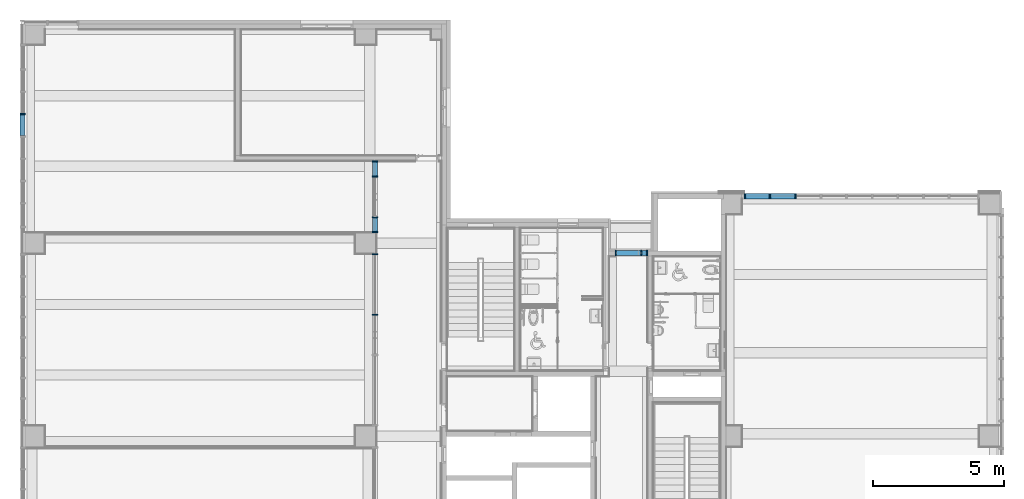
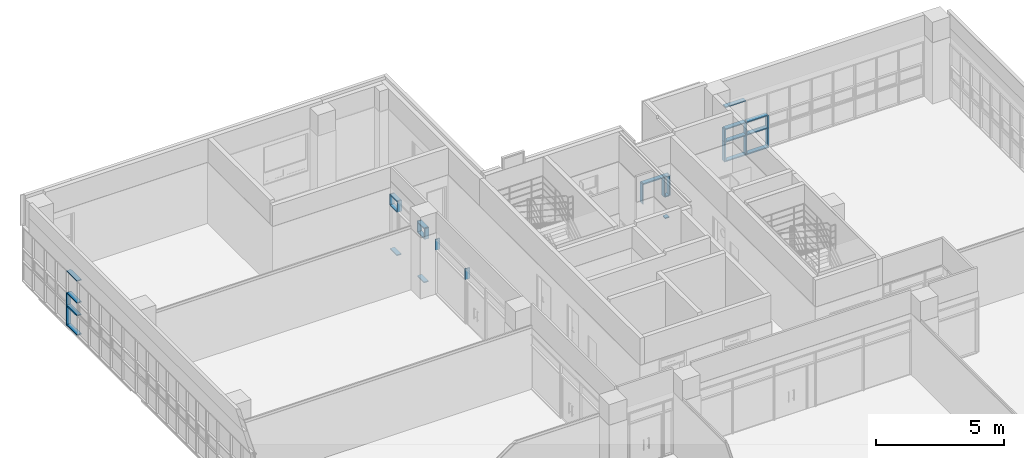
# One storey, part 20 of 76: 38 members, 5 elements without a shape of their own.
"""IFC2X3 building model written with IfcOpenShell, lengths in millimetres."""

from ifc_helpers import new_model, entity, si_unit, converted_unit, derived_unit, direction, frame, origin, origin_2d_with_axis, place, context, subcontext, project, spatial, rectangle, extrude, source, transform, mapped, material, type_object, type_shapes, element, aggregate, save


model = new_model("IFC2X3")

# Units and contexts
model_context = context("Model", 3, precision=0.01, world=origin(), true_north=direction((6.123031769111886e-17, 1.0)))
body_context = subcontext(model_context, "Body", "Model", "MODEL_VIEW")
ifc_project = project(units=[si_unit("LENGTHUNIT", "METRE", prefix="MILLI"), si_unit("AREAUNIT", "SQUARE_METRE"), si_unit("VOLUMEUNIT", "CUBIC_METRE"), converted_unit("PLANEANGLEUNIT", "DEGREE", entity("IfcRatioMeasure", 0.017453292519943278), si_unit("PLANEANGLEUNIT", "RADIAN"), dimensions=[0, 0, 0, 0, 0, 0, 0]), si_unit("MASSUNIT", "GRAM", prefix="KILO"), derived_unit("MASSDENSITYUNIT", [(si_unit("MASSUNIT", "GRAM", prefix="KILO"), 1), (si_unit("LENGTHUNIT", "METRE"), -3)]), derived_unit("MOMENTOFINERTIAUNIT", [(si_unit("LENGTHUNIT", "METRE"), 4)]), si_unit("TIMEUNIT", "SECOND"), si_unit("FREQUENCYUNIT", "HERTZ"), si_unit("THERMODYNAMICTEMPERATUREUNIT", "DEGREE_CELSIUS"), derived_unit("THERMALTRANSMITTANCEUNIT", [(si_unit("MASSUNIT", "GRAM", prefix="KILO"), 1), (si_unit("THERMODYNAMICTEMPERATUREUNIT", "KELVIN"), -1), (si_unit("TIMEUNIT", "SECOND"), -3)]), derived_unit("VOLUMETRICFLOWRATEUNIT", [(si_unit("LENGTHUNIT", "METRE"), 3), (si_unit("TIMEUNIT", "SECOND"), -1)]), derived_unit("MASSFLOWRATEUNIT", [(si_unit("MASSUNIT", "GRAM", prefix="KILO"), 1), (si_unit("TIMEUNIT", "SECOND"), -1)]), derived_unit("ROTATIONALFREQUENCYUNIT", [(si_unit("TIMEUNIT", "SECOND"), -1)]), si_unit("ELECTRICCURRENTUNIT", "AMPERE"), si_unit("ELECTRICVOLTAGEUNIT", "VOLT"), si_unit("POWERUNIT", "WATT"), si_unit("FORCEUNIT", "NEWTON", prefix="KILO"), si_unit("ILLUMINANCEUNIT", "LUX"), si_unit("LUMINOUSFLUXUNIT", "LUMEN"), si_unit("LUMINOUSINTENSITYUNIT", "CANDELA"), derived_unit("USERDEFINED", [(si_unit("MASSUNIT", "GRAM", prefix="KILO"), -1), (si_unit("LENGTHUNIT", "METRE"), -2), (si_unit("TIMEUNIT", "SECOND"), 3), (si_unit("LUMINOUSFLUXUNIT", "LUMEN"), 1)]), derived_unit("SOUNDPOWERUNIT", [(si_unit("MASSUNIT", "GRAM", prefix="KILO"), 1), (si_unit("LENGTHUNIT", "METRE"), 2), (si_unit("TIMEUNIT", "SECOND"), -3)]), derived_unit("SOUNDPRESSUREUNIT", [(si_unit("MASSUNIT", "GRAM", prefix="KILO"), 1), (si_unit("LENGTHUNIT", "METRE"), -1), (si_unit("TIMEUNIT", "SECOND"), -2)]), derived_unit("LINEARVELOCITYUNIT", [(si_unit("LENGTHUNIT", "METRE"), 1), (si_unit("TIMEUNIT", "SECOND"), -1)]), si_unit("PRESSUREUNIT", "PASCAL"), derived_unit("USERDEFINED", [(si_unit("LENGTHUNIT", "METRE"), -2), (si_unit("MASSUNIT", "GRAM", prefix="KILO"), 1), (si_unit("TIMEUNIT", "SECOND"), -2)]), derived_unit("LINEARFORCEUNIT", [(si_unit("MASSUNIT", "GRAM", prefix="KILO"), 1), (si_unit("LENGTHUNIT", "METRE"), 1), (si_unit("TIMEUNIT", "SECOND"), -2), (si_unit("LENGTHUNIT", "METRE"), -1)]), derived_unit("PLANARFORCEUNIT", [(si_unit("MASSUNIT", "GRAM", prefix="KILO"), 1), (si_unit("LENGTHUNIT", "METRE"), 1), (si_unit("TIMEUNIT", "SECOND"), -2), (si_unit("LENGTHUNIT", "METRE"), -2)])], contexts=[model_context])

# Site, building, storey
site_placement = place(None, frame((-14167.972527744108, -657.2125860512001, 0.0)))
site = spatial("IfcSite", under=ifc_project, at=site_placement, Name="Default", CompositionType="ELEMENT")
building_placement = place(site_placement, origin())
building = spatial("IfcBuilding", under=site, at=building_placement, Name="Sample Building", CompositionType="ELEMENT")
storey_placement = place(building_placement, frame((0.0, 0.0, 9300.0)))
storey = spatial("IfcBuildingStorey", under=building, at=storey_placement, Name="지상 3층", CompositionType="ELEMENT", Elevation=9300.000000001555)

# Curtain wall, members
curtain_wall_type = type_object("IfcCurtainWallType", Name="커튼월:CW112-스테인리스 스틸 커튼월", PredefinedType="NOTDEFINED")
curtain_wall_1_placement = place(storey_placement, frame((0.0, 0.0, -9300.0)))
curtain_wall_1 = element("IfcCurtainWall", 1, at=curtain_wall_1_placement, inside=storey, type_object=curtain_wall_type, Name="커튼월:CW112-스테인리스 스틸 커튼월", ObjectType="커튼월:CW112-스테인리스 스틸 커튼월")
ifc_material = material(Name="<Unnamed>")
member_type_1 = type_object("IfcMemberType", Name="직사각형 멀리언:CW200-직사각형 멀리언 50x200mm", PredefinedType="MULLION", material=ifc_material)
shared_shape_1 = source(origin(), body_context, "Body", "SweptSolid", [
    extrude(rectangle(XDim=200.0, YDim=50.0, at=origin_2d_with_axis()), frame((-25.0, 0.0, -925.0), z_axis=(0.0, 0.0, 1.0), x_axis=(0.0, -1.0, 0.0)), (0.0, 0.0, 1.0), 924.9999999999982),
])
type_shapes(member_type_1, [shared_shape_1])
member_1_placement = place(curtain_wall_1_placement, frame((37692.963798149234, 26982.21229514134, 11400.0), z_axis=(1.0, 0.0, 0.0), x_axis=(0.0, 0.0, 1.0)))
member_1 = element("IfcMember", 2, at=member_1_placement, type_object=member_type_1, material=ifc_material, Name="직사각형 멀리언:CW200-직사각형 멀리언 50x200mm", ObjectType="직사각형 멀리언:CW200-직사각형 멀리언 50x200mm", context=body_context, shape_type="MappedRepresentation", body=[
    mapped(shared_shape_1, transform((0.0, 0.0, 0.0), scale=1.0)),
])
member_type_2 = type_object("IfcMemberType", Name="직사각형 멀리언:CW200-직사각형 멀리언 50x200mm", PredefinedType="MULLION", material=ifc_material)
shared_shape_2 = source(origin(), body_context, "Body", "SweptSolid", [
    extrude(rectangle(XDim=200.0, YDim=50.0, at=origin_2d_with_axis()), frame((-25.0, 0.0, -175.0), z_axis=(0.0, 0.0, 1.0), x_axis=(0.0, -1.0, 0.0)), (0.0, 0.0, 1.0), 175.0000000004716),
])
type_shapes(member_type_2, [shared_shape_2])
member_2_placement = place(curtain_wall_1_placement, frame((37917.963798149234, 26982.21229514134, 11400.0), z_axis=(1.0, 0.0, 0.0), x_axis=(0.0, 0.0, 1.0)))
member_2 = element("IfcMember", 3, at=member_2_placement, type_object=member_type_2, material=ifc_material, Name="직사각형 멀리언:CW200-직사각형 멀리언 50x200mm", ObjectType="직사각형 멀리언:CW200-직사각형 멀리언 50x200mm", context=body_context, shape_type="MappedRepresentation", body=[
    mapped(shared_shape_2, transform((0.0, 0.0, 0.0), scale=1.0)),
])
member_type_3 = type_object("IfcMemberType", Name="직사각형 멀리언:CW200-직사각형 멀리언 50x200mm", PredefinedType="MULLION", material=ifc_material)
shared_shape_3 = source(origin(), body_context, "Body", "SweptSolid", [
    extrude(rectangle(XDim=200.0, YDim=50.0, at=origin_2d_with_axis()), frame((-25.0, 0.0, -970.0), z_axis=(0.0, 0.0, 1.0), x_axis=(0.0, -1.0, 0.0)), (0.0, 0.0, 1.0), 970.0000000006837),
])
type_shapes(member_type_3, [shared_shape_3])
member_3_placement = place(curtain_wall_1_placement, frame((36717.963798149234, 26982.212295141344, 11400.0), z_axis=(0.0, 0.0, 1.0), x_axis=(-1.0, 0.0, 0.0)))
member_3 = element("IfcMember", 4, at=member_3_placement, type_object=member_type_3, material=ifc_material, Name="직사각형 멀리언:CW200-직사각형 멀리언 50x200mm", ObjectType="직사각형 멀리언:CW200-직사각형 멀리언 50x200mm", context=body_context, shape_type="MappedRepresentation", body=[
    mapped(shared_shape_3, transform((0.0, 0.0, 0.0), scale=1.0)),
])
member_type_4 = type_object("IfcMemberType", Name="직사각형 멀리언:CW200-직사각형 멀리언 50x200mm", PredefinedType="MULLION", material=ifc_material)
shared_shape_4 = source(origin(), body_context, "Body", "SweptSolid", [
    extrude(rectangle(XDim=200.0, YDim=50.0, at=origin_2d_with_axis()), frame((-25.0, 0.0, -175.0), z_axis=(0.0, 0.0, 1.0), x_axis=(0.0, -1.0, 0.0)), (0.0, 0.0, 1.0), 175.0000000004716),
])
type_shapes(member_type_4, [shared_shape_4])
member_4_placement = place(curtain_wall_1_placement, frame((37742.963798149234, 26982.21229514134, 9380.0), z_axis=(-1.0, 0.0, 0.0), x_axis=(0.0, 0.0, -1.0)))
member_4 = element("IfcMember", 5, at=member_4_placement, type_object=member_type_4, material=ifc_material, Name="직사각형 멀리언:CW200-직사각형 멀리언 50x200mm", ObjectType="직사각형 멀리언:CW200-직사각형 멀리언 50x200mm", context=body_context, shape_type="MappedRepresentation", body=[
    mapped(shared_shape_4, transform((0.0, 0.0, 0.0), scale=1.0)),
])
member_type_5 = type_object("IfcMemberType", Name="직사각형 멀리언:CW200-직사각형 멀리언 50x200mm", PredefinedType="MULLION", material=ifc_material)
shared_shape_5 = source(origin(), body_context, "Body", "SweptSolid", [
    extrude(rectangle(XDim=200.0, YDim=50.0, at=origin_2d_with_axis()), frame((-25.0, 0.0, -970.0), z_axis=(0.0, 0.0, 1.0), x_axis=(0.0, -1.0, 0.0)), (0.0, 0.0, 1.0), 970.0000000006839),
])
type_shapes(member_type_5, [shared_shape_5])
member_5_placement = place(curtain_wall_1_placement, frame((37967.96379814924, 26982.21229514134, 10430.0), z_axis=(0.0, 0.0, -1.0), x_axis=(1.0, 0.0, 0.0)))
member_5 = element("IfcMember", 6, at=member_5_placement, type_object=member_type_5, material=ifc_material, Name="직사각형 멀리언:CW200-직사각형 멀리언 50x200mm", ObjectType="직사각형 멀리언:CW200-직사각형 멀리언 50x200mm", context=body_context, shape_type="MappedRepresentation", body=[
    mapped(shared_shape_5, transform((0.0, 0.0, 0.0), scale=1.0)),
])
member_type_6 = type_object("IfcMemberType", Name="직사각형 멀리언:CW200-직사각형 멀리언 50x200mm", PredefinedType="MULLION", material=ifc_material)
shared_shape_6 = source(origin(), body_context, "Body", "SweptSolid", [
    extrude(rectangle(XDim=200.0, YDim=50.0, at=origin_2d_with_axis()), frame((0.0, 0.0, -175.0), z_axis=(0.0, 0.0, 1.0), x_axis=(0.0, -1.0, 0.0)), (0.0, 0.0, 1.0), 175.00000000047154),
])
type_shapes(member_type_6, [shared_shape_6])
member_6_placement = place(curtain_wall_1_placement, frame((37917.963798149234, 26982.21229514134, 10430.0), z_axis=(1.0, 0.0, 0.0), x_axis=(0.0, 0.0, 1.0)))
member_6 = element("IfcMember", 7, at=member_6_placement, type_object=member_type_6, material=ifc_material, Name="직사각형 멀리언:CW200-직사각형 멀리언 50x200mm", ObjectType="직사각형 멀리언:CW200-직사각형 멀리언 50x200mm", context=body_context, shape_type="MappedRepresentation", body=[
    mapped(shared_shape_6, transform((0.0, 0.0, 0.0), scale=1.0)),
])
member_type_7 = type_object("IfcMemberType", Name="직사각형 멀리언:CW200-직사각형 멀리언 50x200mm", PredefinedType="MULLION", material=ifc_material)
shared_shape_7 = source(origin(), body_context, "Body", "SweptSolid", [
    extrude(rectangle(XDim=200.0, YDim=50.0, at=origin_2d_with_axis()), frame((0.0, 0.0, -970.0), z_axis=(0.0, 0.0, 1.0), x_axis=(0.0, -1.0, 0.0)), (0.0, 0.0, 1.0), 970.0000000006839),
])
type_shapes(member_type_7, [shared_shape_7])
member_7_placement = place(curtain_wall_1_placement, frame((37717.963798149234, 26982.21229514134, 10430.0), z_axis=(0.0, 0.0, -1.0), x_axis=(1.0, 0.0, 0.0)))
member_7 = element("IfcMember", 8, at=member_7_placement, type_object=member_type_7, material=ifc_material, Name="직사각형 멀리언:CW200-직사각형 멀리언 50x200mm", ObjectType="직사각형 멀리언:CW200-직사각형 멀리언 50x200mm", context=body_context, shape_type="MappedRepresentation", body=[
    mapped(shared_shape_7, transform((0.0, 0.0, 0.0), scale=1.0)),
])
aggregate(curtain_wall_1, [member_2, member_3, member_1, member_4, member_5, member_6, member_7])

# Curtain wall, member
curtain_wall_2_placement = place(storey_placement, frame((0.0, 0.0, -9300.0)))
curtain_wall_2 = element("IfcCurtainWall", 9, at=curtain_wall_2_placement, inside=storey, type_object=curtain_wall_type, Name="커튼월:CW112-스테인리스 스틸 커튼월", ObjectType="커튼월:CW112-스테인리스 스틸 커튼월")
member_type_8 = type_object("IfcMemberType", Name="직사각형 멀리언:CW200-직사각형 멀리언 50x200mm", PredefinedType="MULLION", material=ifc_material)
shared_shape_8 = source(origin(), body_context, "Body", "SweptSolid", [
    extrude(rectangle(XDim=200.0, YDim=50.0, at=origin_2d_with_axis()), frame((-25.0, 0.0, -600.0), z_axis=(0.0, 0.0, 1.0), x_axis=(0.0, -1.0, 0.0)), (0.0, 0.0, 1.0), 600.0),
])
type_shapes(member_type_8, [shared_shape_8])
member_8_placement = place(curtain_wall_2_placement, frame((41667.97248530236, 29157.212295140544, 10330.0), z_axis=(0.0, 0.0, -1.0), x_axis=(-1.0, 0.0, 0.0)))
member_8 = element("IfcMember", 10, at=member_8_placement, type_object=member_type_8, material=ifc_material, Name="직사각형 멀리언:CW200-직사각형 멀리언 50x200mm", ObjectType="직사각형 멀리언:CW200-직사각형 멀리언 50x200mm", context=body_context, shape_type="MappedRepresentation", body=[
    mapped(shared_shape_8, transform((0.0, 0.0, 0.0), scale=1.0)),
])

curtain_wall_3_placement = place(storey_placement, frame((0.0, 0.0, -9300.0)))
curtain_wall_3 = element("IfcCurtainWall", 11, at=curtain_wall_3_placement, inside=storey, type_object=curtain_wall_type, Name="커튼월:CW112-스테인리스 스틸 커튼월", ObjectType="커튼월:CW112-스테인리스 스틸 커튼월")
member_type_9 = type_object("IfcMemberType", Name="직사각형 멀리언:CW200-직사각형 멀리언 50x200mm", PredefinedType="MULLION", material=ifc_material)
shared_shape_9 = source(origin(), body_context, "Body", "SweptSolid", [
    extrude(rectangle(XDim=200.0, YDim=50.0, at=origin_2d_with_axis()), frame((0.0, 0.0, -600.0), z_axis=(0.0, 0.0, 1.0), x_axis=(0.0, -1.0, 0.0)), (0.0, 0.0, 1.0), 600.0),
])
type_shapes(member_type_9, [shared_shape_9])
member_9_placement = place(curtain_wall_3_placement, frame((14018.587904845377, 32301.817707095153, 10330.0), z_axis=(0.0, 0.0, -1.0), x_axis=(0.0, -1.0, 0.0)))
member_9 = element("IfcMember", 12, at=member_9_placement, type_object=member_type_9, material=ifc_material, Name="직사각형 멀리언:CW200-직사각형 멀리언 50x200mm", ObjectType="직사각형 멀리언:CW200-직사각형 멀리언 50x200mm", context=body_context, shape_type="MappedRepresentation", body=[
    mapped(shared_shape_9, transform((0.0, 0.0, 0.0), scale=1.0)),
])

# Member
member_10_placement = place(curtain_wall_2_placement, frame((43627.970754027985, 29157.212295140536, 10330.0), z_axis=(0.0, 0.0, -1.0), x_axis=(-1.0, 0.0, 0.0)))
member_10 = element("IfcMember", 13, at=member_10_placement, type_object=member_type_9, material=ifc_material, Name="직사각형 멀리언:CW200-직사각형 멀리언 50x200mm", ObjectType="직사각형 멀리언:CW200-직사각형 멀리언 50x200mm", context=body_context, shape_type="MappedRepresentation", body=[
    mapped(shared_shape_9, transform((0.0, 0.0, 0.0), scale=1.0)),
])

member_11_placement = place(curtain_wall_2_placement, frame((42647.97161966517, 29157.21229514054, 10330.0), z_axis=(0.0, 0.0, -1.0), x_axis=(-1.0, 0.0, 0.0)))
member_11 = element("IfcMember", 14, at=member_11_placement, type_object=member_type_9, material=ifc_material, Name="직사각형 멀리언:CW200-직사각형 멀리언 50x200mm", ObjectType="직사각형 멀리언:CW200-직사각형 멀리언 50x200mm", context=body_context, shape_type="MappedRepresentation", body=[
    mapped(shared_shape_9, transform((0.0, 0.0, 0.0), scale=1.0)),
])

# Curtain wall, members
curtain_wall_4_placement = place(storey_placement, frame((0.0, 0.0, -9300.0)))
curtain_wall_4 = element("IfcCurtainWall", 15, at=curtain_wall_4_placement, inside=storey, type_object=curtain_wall_type, Name="커튼월:CW112-스테인리스 스틸 커튼월", ObjectType="커튼월:CW112-스테인리스 스틸 커튼월")
member_type_10 = type_object("IfcMemberType", Name="직사각형 멀리언:CW200-직사각형 멀리언 50x200mm", PredefinedType="MULLION", material=ifc_material)
shared_shape_10 = source(origin(), body_context, "Body", "SweptSolid", [
    extrude(rectangle(XDim=200.0, YDim=50.0, at=origin_2d_with_axis()), frame((-25.0, 0.0, -520.0002780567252), z_axis=(0.0, 0.0, 1.0), x_axis=(0.0, -1.0, 0.0)), (0.0, 0.0, 1.0), 520.0002780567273),
])
type_shapes(member_type_10, [shared_shape_10])
member_12_placement = place(curtain_wall_4_placement, frame((27522.955105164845, 27807.212307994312, 12000.0), z_axis=(0.0, -1.0, 0.0), x_axis=(0.0, 0.0, 1.0)))
member_12 = element("IfcMember", 16, at=member_12_placement, type_object=member_type_10, material=ifc_material, Name="직사각형 멀리언:CW200-직사각형 멀리언 50x200mm", ObjectType="직사각형 멀리언:CW200-직사각형 멀리언 50x200mm", context=body_context, shape_type="MappedRepresentation", body=[
    mapped(shared_shape_10, transform((0.0, 0.0, 0.0), scale=1.0)),
])
member_type_11 = type_object("IfcMemberType", Name="직사각형 멀리언:CW200-직사각형 멀리언 50x200mm", PredefinedType="MULLION", material=ifc_material)
shared_shape_11 = source(origin(), body_context, "Body", "SweptSolid", [
    extrude(rectangle(XDim=200.0, YDim=50.0, at=origin_2d_with_axis()), frame((-25.0, 0.0, -525.0), z_axis=(0.0, 0.0, 1.0), x_axis=(0.0, -1.0, 0.0)), (0.0, 0.0, 1.0), 524.9999999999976),
])
type_shapes(member_type_11, [shared_shape_11])
member_13_placement = place(curtain_wall_4_placement, frame((27522.955105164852, 30457.212275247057, 9380.0), z_axis=(0.0, 1.0, 0.0), x_axis=(0.0, 0.0, -1.0)))
member_13 = element("IfcMember", 17, at=member_13_placement, type_object=member_type_11, material=ifc_material, Name="직사각형 멀리언:CW200-직사각형 멀리언 50x200mm", ObjectType="직사각형 멀리언:CW200-직사각형 멀리언 50x200mm", context=body_context, shape_type="MappedRepresentation", body=[
    mapped(shared_shape_11, transform((0.0, 0.0, 0.0), scale=1.0)),
])
member_type_12 = type_object("IfcMemberType", Name="직사각형 멀리언:CW200-직사각형 멀리언 50x200mm", PredefinedType="MULLION", material=ifc_material)
shared_shape_12 = source(origin(), body_context, "Body", "SweptSolid", [
    extrude(rectangle(XDim=200.0, YDim=50.0, at=origin_2d_with_axis()), frame((-25.0, 0.0, -520.0), z_axis=(0.0, 0.0, 1.0), x_axis=(0.0, -1.0, 0.0)), (0.0, 0.0, 1.0), 520.0000000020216),
])
type_shapes(member_type_12, [shared_shape_12])
member_14_placement = place(curtain_wall_4_placement, frame((27522.955105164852, 30507.21227524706, 12000.0), z_axis=(0.0, 0.0, 1.0), x_axis=(0.0, 1.0, 0.0)))
member_14 = element("IfcMember", 18, at=member_14_placement, type_object=member_type_12, material=ifc_material, Name="직사각형 멀리언:CW200-직사각형 멀리언 50x200mm", ObjectType="직사각형 멀리언:CW200-직사각형 멀리언 50x200mm", context=body_context, shape_type="MappedRepresentation", body=[
    mapped(shared_shape_12, transform((0.0, 0.0, 0.0), scale=1.0)),
])

# Curtain wall, member
curtain_wall_5_placement = place(storey_placement, frame((0.0, 0.0, -9300.0)))
curtain_wall_5 = element("IfcCurtainWall", 19, at=curtain_wall_5_placement, inside=storey, type_object=curtain_wall_type, Name="커튼월:CW112-스테인리스 스틸 커튼월", ObjectType="커튼월:CW112-스테인리스 스틸 커튼월")
member_15_placement = place(curtain_wall_5_placement, frame((27522.955105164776, 26957.21230799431, 12000.0), z_axis=(0.0, 0.0, 1.0), x_axis=(0.0, 1.0, 0.0)))
member_15 = element("IfcMember", 20, at=member_15_placement, type_object=member_type_12, material=ifc_material, Name="직사각형 멀리언:CW200-직사각형 멀리언 50x200mm", ObjectType="직사각형 멀리언:CW200-직사각형 멀리언 50x200mm", context=body_context, shape_type="MappedRepresentation", body=[
    mapped(shared_shape_12, transform((0.0, 0.0, 0.0), scale=1.0)),
])

# Member
member_type_13 = type_object("IfcMemberType", Name="직사각형 멀리언:CW200-직사각형 멀리언 50x200mm", PredefinedType="MULLION", material=ifc_material)
shared_shape_13 = source(origin(), body_context, "Body", "SweptSolid", [
    extrude(rectangle(XDim=200.0, YDim=50.0, at=origin_2d_with_axis()), frame((-25.0, 0.0, -520.0), z_axis=(0.0, 0.0, 1.0), x_axis=(0.0, -1.0, 0.0)), (0.0, 0.0, 1.0), 520.0000000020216),
])
type_shapes(member_type_13, [shared_shape_13])
member_16_placement = place(curtain_wall_4_placement, frame((27522.955105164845, 27757.21230799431, 11480.0), z_axis=(0.0, 0.0, -1.0), x_axis=(0.0, -1.0, 0.0)))
member_16 = element("IfcMember", 21, at=member_16_placement, type_object=member_type_13, material=ifc_material, Name="직사각형 멀리언:CW200-직사각형 멀리언 50x200mm", ObjectType="직사각형 멀리언:CW200-직사각형 멀리언 50x200mm", context=body_context, shape_type="MappedRepresentation", body=[
    mapped(shared_shape_13, transform((0.0, 0.0, 0.0), scale=1.0)),
])

member_type_14 = type_object("IfcMemberType", Name="직사각형 멀리언:CW200-직사각형 멀리언 50x200mm", PredefinedType="MULLION", material=ifc_material)
shared_shape_14 = source(origin(), body_context, "Body", "SweptSolid", [
    extrude(rectangle(XDim=200.0, YDim=50.0, at=origin_2d_with_axis()), frame((0.0, 0.0, -525.0), z_axis=(0.0, 0.0, 1.0), x_axis=(0.0, -1.0, 0.0)), (0.0, 0.0, 1.0), 524.9999999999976),
])
type_shapes(member_type_14, [shared_shape_14])
member_17_placement = place(curtain_wall_4_placement, frame((27522.955105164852, 29932.21227524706, 11480.0), z_axis=(0.0, -1.0, 0.0), x_axis=(0.0, 0.0, 1.0)))
member_17 = element("IfcMember", 22, at=member_17_placement, type_object=member_type_14, material=ifc_material, Name="직사각형 멀리언:CW200-직사각형 멀리언 50x200mm", ObjectType="직사각형 멀리언:CW200-직사각형 멀리언 50x200mm", context=body_context, shape_type="MappedRepresentation", body=[
    mapped(shared_shape_14, transform((0.0, 0.0, 0.0), scale=1.0)),
])

member_type_15 = type_object("IfcMemberType", Name="직사각형 멀리언:CW200-직사각형 멀리언 50x200mm", PredefinedType="MULLION", material=ifc_material)
shared_shape_15 = source(origin(), body_context, "Body", "SweptSolid", [
    extrude(rectangle(XDim=200.0, YDim=50.0, at=origin_2d_with_axis()), frame((-25.0, 0.0, -525.0), z_axis=(0.0, 0.0, 1.0), x_axis=(0.0, -1.0, 0.0)), (0.0, 0.0, 1.0), 524.9999999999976),
])
type_shapes(member_type_15, [shared_shape_15])
member_18_placement = place(curtain_wall_4_placement, frame((27522.955105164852, 29932.21227524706, 12000.0), z_axis=(0.0, -1.0, 0.0), x_axis=(0.0, 0.0, 1.0)))
member_18 = element("IfcMember", 23, at=member_18_placement, type_object=member_type_15, material=ifc_material, Name="직사각형 멀리언:CW200-직사각형 멀리언 50x200mm", ObjectType="직사각형 멀리언:CW200-직사각형 멀리언 50x200mm", context=body_context, shape_type="MappedRepresentation", body=[
    mapped(shared_shape_15, transform((0.0, 0.0, 0.0), scale=1.0)),
])

member_type_16 = type_object("IfcMemberType", Name="직사각형 멀리언:CW200-직사각형 멀리언 50x200mm", PredefinedType="MULLION", material=ifc_material)
shared_shape_16 = source(origin(), body_context, "Body", "SweptSolid", [
    extrude(rectangle(XDim=200.0, YDim=50.0, at=origin_2d_with_axis()), frame((0.0, 0.0, -520.0), z_axis=(0.0, 0.0, 1.0), x_axis=(0.0, -1.0, 0.0)), (0.0, 0.0, 1.0), 520.0000000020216),
])
type_shapes(member_type_16, [shared_shape_16])
member_19_placement = place(curtain_wall_4_placement, frame((27522.955105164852, 29907.21227524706, 11480.0), z_axis=(0.0, 0.0, -1.0), x_axis=(0.0, -1.0, 0.0)))
member_19 = element("IfcMember", 24, at=member_19_placement, type_object=member_type_16, material=ifc_material, Name="직사각형 멀리언:CW200-직사각형 멀리언 50x200mm", ObjectType="직사각형 멀리언:CW200-직사각형 멀리언 50x200mm", context=body_context, shape_type="MappedRepresentation", body=[
    mapped(shared_shape_16, transform((0.0, 0.0, 0.0), scale=1.0)),
])

member_20_placement = place(curtain_wall_4_placement, frame((27522.955105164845, 28352.21258605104, 11480.0), z_axis=(0.0, 0.0, -1.0), x_axis=(0.0, -1.0, 0.0)))
member_20 = element("IfcMember", 25, at=member_20_placement, type_object=member_type_16, material=ifc_material, Name="직사각형 멀리언:CW200-직사각형 멀리언 50x200mm", ObjectType="직사각형 멀리언:CW200-직사각형 멀리언 50x200mm", context=body_context, shape_type="MappedRepresentation", body=[
    mapped(shared_shape_16, transform((0.0, 0.0, 0.0), scale=1.0)),
])

member_21_placement = place(curtain_wall_5_placement, frame((27522.955105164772, 24617.21230799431, 11480.0), z_axis=(0.0, 0.0, -1.0), x_axis=(0.0, -1.0, 0.0)))
member_21 = element("IfcMember", 26, at=member_21_placement, type_object=member_type_16, material=ifc_material, Name="직사각형 멀리언:CW200-직사각형 멀리언 50x200mm", ObjectType="직사각형 멀리언:CW200-직사각형 멀리언 50x200mm", context=body_context, shape_type="MappedRepresentation", body=[
    mapped(shared_shape_16, transform((0.0, 0.0, 0.0), scale=1.0)),
])

aggregate(curtain_wall_5, [member_15, member_21])

member_type_17 = type_object("IfcMemberType", Name="직사각형 멀리언:CW200-직사각형 멀리언 50x200mm", PredefinedType="MULLION", material=ifc_material)
shared_shape_17 = source(origin(), body_context, "Body", "SweptSolid", [
    extrude(rectangle(XDim=200.0, YDim=50.0, at=origin_2d_with_axis()), frame((-25.0, 0.0, -520.0002780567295), z_axis=(0.0, 0.0, 1.0), x_axis=(0.0, -1.0, 0.0)), (0.0, 0.0, 1.0), 520.0002780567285),
])
type_shapes(member_type_17, [shared_shape_17])
member_22_placement = place(curtain_wall_4_placement, frame((27522.955105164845, 28327.21258605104, 9380.0), z_axis=(0.0, 1.0, 0.0), x_axis=(0.0, 0.0, -1.0)))
member_22 = element("IfcMember", 27, at=member_22_placement, type_object=member_type_17, material=ifc_material, Name="직사각형 멀리언:CW200-직사각형 멀리언 50x200mm", ObjectType="직사각형 멀리언:CW200-직사각형 멀리언 50x200mm", context=body_context, shape_type="MappedRepresentation", body=[
    mapped(shared_shape_17, transform((0.0, 0.0, 0.0), scale=1.0)),
])

member_type_18 = type_object("IfcMemberType", Name="직사각형 멀리언:CW200-직사각형 멀리언 50x200mm", PredefinedType="MULLION", material=ifc_material)
shared_shape_18 = source(origin(), body_context, "Body", "SweptSolid", [
    extrude(rectangle(XDim=200.0, YDim=50.0, at=origin_2d_with_axis()), frame((0.0, 0.0, -520.0002780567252), z_axis=(0.0, 0.0, 1.0), x_axis=(0.0, -1.0, 0.0)), (0.0, 0.0, 1.0), 520.0002780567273),
])
type_shapes(member_type_18, [shared_shape_18])
member_23_placement = place(curtain_wall_4_placement, frame((27522.955105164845, 27807.212307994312, 11480.0), z_axis=(0.0, -1.0, 0.0), x_axis=(0.0, 0.0, 1.0)))
member_23 = element("IfcMember", 28, at=member_23_placement, type_object=member_type_18, material=ifc_material, Name="직사각형 멀리언:CW200-직사각형 멀리언 50x200mm", ObjectType="직사각형 멀리언:CW200-직사각형 멀리언 50x200mm", context=body_context, shape_type="MappedRepresentation", body=[
    mapped(shared_shape_18, transform((0.0, 0.0, 0.0), scale=1.0)),
])

aggregate(curtain_wall_4, [member_12, member_13, member_14, member_16, member_17, member_18, member_19, member_22, member_23, member_20])

member_type_19 = type_object("IfcMemberType", Name="직사각형 멀리언:CW200-직사각형 멀리언 50x200mm", PredefinedType="MULLION", material=ifc_material)
shared_shape_19 = source(origin(), body_context, "Body", "SweptSolid", [
    extrude(rectangle(XDim=200.0, YDim=50.0, at=origin_2d_with_axis()), frame((0.0, 0.0, -950.0), z_axis=(0.0, 0.0, 1.0), x_axis=(0.0, -1.0, 0.0)), (0.0, 0.0, 1.0), 949.9999999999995),
])
type_shapes(member_type_19, [shared_shape_19])
member_24_placement = place(curtain_wall_3_placement, frame((14018.587904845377, 32301.817707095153, 9380.0), z_axis=(0.0, 0.0, -1.0), x_axis=(0.0, -1.0, 0.0)))
member_24 = element("IfcMember", 29, at=member_24_placement, type_object=member_type_19, material=ifc_material, Name="직사각형 멀리언:CW200-직사각형 멀리언 50x200mm", ObjectType="직사각형 멀리언:CW200-직사각형 멀리언 50x200mm", context=body_context, shape_type="MappedRepresentation", body=[
    mapped(shared_shape_19, transform((0.0, 0.0, 0.0), scale=1.0)),
])

member_25_placement = place(curtain_wall_2_placement, frame((43627.970754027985, 29157.212295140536, 9380.0), z_axis=(0.0, 0.0, -1.0), x_axis=(-1.0, 0.0, 0.0)))
member_25 = element("IfcMember", 30, at=member_25_placement, type_object=member_type_19, material=ifc_material, Name="직사각형 멀리언:CW200-직사각형 멀리언 50x200mm", ObjectType="직사각형 멀리언:CW200-직사각형 멀리언 50x200mm", context=body_context, shape_type="MappedRepresentation", body=[
    mapped(shared_shape_19, transform((0.0, 0.0, 0.0), scale=1.0)),
])

member_26_placement = place(curtain_wall_2_placement, frame((42647.97161966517, 29157.21229514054, 9380.0), z_axis=(0.0, 0.0, -1.0), x_axis=(-1.0, 0.0, 0.0)))
member_26 = element("IfcMember", 31, at=member_26_placement, type_object=member_type_19, material=ifc_material, Name="직사각형 멀리언:CW200-직사각형 멀리언 50x200mm", ObjectType="직사각형 멀리언:CW200-직사각형 멀리언 50x200mm", context=body_context, shape_type="MappedRepresentation", body=[
    mapped(shared_shape_19, transform((0.0, 0.0, 0.0), scale=1.0)),
])

member_type_20 = type_object("IfcMemberType", Name="직사각형 멀리언:CW200-직사각형 멀리언 50x200mm", PredefinedType="MULLION", material=ifc_material)
shared_shape_20 = source(origin(), body_context, "Body", "SweptSolid", [
    extrude(rectangle(XDim=200.0, YDim=50.0, at=origin_2d_with_axis()), frame((-25.0, 0.0, -804.0), z_axis=(0.0, 0.0, 1.0), x_axis=(0.0, -1.0, 0.0)), (0.0, 0.0, 1.0), 804.0000000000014),
])
type_shapes(member_type_20, [shared_shape_20])
member_27_placement = place(curtain_wall_3_placement, frame((14018.587904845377, 32276.817707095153, 9380.0), z_axis=(0.0, 1.0, 0.0), x_axis=(0.0, 0.0, -1.0)))
member_27 = element("IfcMember", 32, at=member_27_placement, type_object=member_type_20, material=ifc_material, Name="직사각형 멀리언:CW200-직사각형 멀리언 50x200mm", ObjectType="직사각형 멀리언:CW200-직사각형 멀리언 50x200mm", context=body_context, shape_type="MappedRepresentation", body=[
    mapped(shared_shape_20, transform((0.0, 0.0, 0.0), scale=1.0)),
])

member_type_21 = type_object("IfcMemberType", Name="직사각형 멀리언:CW200-직사각형 멀리언 50x200mm", PredefinedType="MULLION", material=ifc_material)
shared_shape_21 = source(origin(), body_context, "Body", "SweptSolid", [
    extrude(rectangle(XDim=200.0, YDim=50.0, at=origin_2d_with_axis()), frame((0.0, 0.0, -804.0), z_axis=(0.0, 0.0, 1.0), x_axis=(0.0, -1.0, 0.0)), (0.0, 0.0, 1.0), 803.9999999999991),
])
type_shapes(member_type_21, [shared_shape_21])
member_28_placement = place(curtain_wall_3_placement, frame((14018.587904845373, 31472.81770709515, 10330.0), z_axis=(0.0, -1.0, 0.0), x_axis=(0.0, 0.0, 1.0)))
member_28 = element("IfcMember", 33, at=member_28_placement, type_object=member_type_21, material=ifc_material, Name="직사각형 멀리언:CW200-직사각형 멀리언 50x200mm", ObjectType="직사각형 멀리언:CW200-직사각형 멀리언 50x200mm", context=body_context, shape_type="MappedRepresentation", body=[
    mapped(shared_shape_21, transform((0.0, 0.0, 0.0), scale=1.0)),
])

member_29_placement = place(curtain_wall_3_placement, frame((14018.587904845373, 31472.81770709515, 10930.0), z_axis=(0.0, -1.0, 0.0), x_axis=(0.0, 0.0, 1.0)))
member_29 = element("IfcMember", 34, at=member_29_placement, type_object=member_type_21, material=ifc_material, Name="직사각형 멀리언:CW200-직사각형 멀리언 50x200mm", ObjectType="직사각형 멀리언:CW200-직사각형 멀리언 50x200mm", context=body_context, shape_type="MappedRepresentation", body=[
    mapped(shared_shape_21, transform((0.0, 0.0, 0.0), scale=1.0)),
])

member_type_22 = type_object("IfcMemberType", Name="직사각형 멀리언:CW200-직사각형 멀리언 50x200mm", PredefinedType="MULLION", material=ifc_material)
shared_shape_22 = source(origin(), body_context, "Body", "SweptSolid", [
    extrude(rectangle(XDim=200.0, YDim=50.0, at=origin_2d_with_axis()), frame((-25.0, 0.0, -804.0), z_axis=(0.0, 0.0, 1.0), x_axis=(0.0, -1.0, 0.0)), (0.0, 0.0, 1.0), 803.9999999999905),
])
type_shapes(member_type_22, [shared_shape_22])
member_30_placement = place(curtain_wall_3_placement, frame((14018.587904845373, 31472.81770709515, 12000.0), z_axis=(0.0, -1.0, 0.0), x_axis=(0.0, 0.0, 1.0)))
member_30 = element("IfcMember", 35, at=member_30_placement, type_object=member_type_22, material=ifc_material, Name="직사각형 멀리언:CW200-직사각형 멀리언 50x200mm", ObjectType="직사각형 멀리언:CW200-직사각형 멀리언 50x200mm", context=body_context, shape_type="MappedRepresentation", body=[
    mapped(shared_shape_22, transform((0.0, 0.0, 0.0), scale=1.0)),
])

aggregate(curtain_wall_3, [member_24, member_9, member_30, member_27, member_28, member_29])

member_type_23 = type_object("IfcMemberType", Name="직사각형 멀리언:CW200-직사각형 멀리언 50x200mm", PredefinedType="MULLION", material=ifc_material)
shared_shape_23 = source(origin(), body_context, "Body", "SweptSolid", [
    extrude(rectangle(XDim=200.0, YDim=50.0, at=origin_2d_with_axis()), frame((-25.0, 0.0, -904.9991343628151), z_axis=(0.0, 0.0, 1.0), x_axis=(0.0, -1.0, 0.0)), (0.0, 0.0, 1.0), 904.9991343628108),
])
type_shapes(member_type_23, [shared_shape_23])
member_31_placement = place(curtain_wall_2_placement, frame((41717.97248530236, 29157.212295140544, 12000.0), z_axis=(-1.0, 0.0, 0.0), x_axis=(0.0, 0.0, 1.0)))
member_31 = element("IfcMember", 36, at=member_31_placement, type_object=member_type_23, material=ifc_material, Name="직사각형 멀리언:CW200-직사각형 멀리언 50x200mm", ObjectType="직사각형 멀리언:CW200-직사각형 멀리언 50x200mm", context=body_context, shape_type="MappedRepresentation", body=[
    mapped(shared_shape_23, transform((0.0, 0.0, 0.0), scale=1.0)),
])

member_type_24 = type_object("IfcMemberType", Name="직사각형 멀리언:CW200-직사각형 멀리언 50x200mm", PredefinedType="MULLION", material=ifc_material)
shared_shape_24 = source(origin(), body_context, "Body", "SweptSolid", [
    extrude(rectangle(XDim=200.0, YDim=50.0, at=origin_2d_with_axis()), frame((-25.0, 0.0, -950.0), z_axis=(0.0, 0.0, 1.0), x_axis=(0.0, -1.0, 0.0)), (0.0, 0.0, 1.0), 949.9999999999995),
])
type_shapes(member_type_24, [shared_shape_24])
member_32_placement = place(curtain_wall_2_placement, frame((41667.97248530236, 29157.212295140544, 9380.0), z_axis=(0.0, 0.0, -1.0), x_axis=(-1.0, 0.0, 0.0)))
member_32 = element("IfcMember", 37, at=member_32_placement, type_object=member_type_24, material=ifc_material, Name="직사각형 멀리언:CW200-직사각형 멀리언 50x200mm", ObjectType="직사각형 멀리언:CW200-직사각형 멀리언 50x200mm", context=body_context, shape_type="MappedRepresentation", body=[
    mapped(shared_shape_24, transform((0.0, 0.0, 0.0), scale=1.0)),
])

member_type_25 = type_object("IfcMemberType", Name="직사각형 멀리언:CW200-직사각형 멀리언 50x200mm", PredefinedType="MULLION", material=ifc_material)
shared_shape_25 = source(origin(), body_context, "Body", "SweptSolid", [
    extrude(rectangle(XDim=200.0, YDim=50.0, at=origin_2d_with_axis()), frame((-25.0, 0.0, -929.9991343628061), z_axis=(0.0, 0.0, 1.0), x_axis=(0.0, -1.0, 0.0)), (0.0, 0.0, 1.0), 929.9991343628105),
])
type_shapes(member_type_25, [shared_shape_25])
member_33_placement = place(curtain_wall_2_placement, frame((43602.97075402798, 29157.212295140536, 9380.0), z_axis=(1.0, 0.0, 0.0), x_axis=(0.0, 0.0, -1.0)))
member_33 = element("IfcMember", 38, at=member_33_placement, type_object=member_type_25, material=ifc_material, Name="직사각형 멀리언:CW200-직사각형 멀리언 50x200mm", ObjectType="직사각형 멀리언:CW200-직사각형 멀리언 50x200mm", context=body_context, shape_type="MappedRepresentation", body=[
    mapped(shared_shape_25, transform((0.0, 0.0, 0.0), scale=1.0)),
])

member_type_26 = type_object("IfcMemberType", Name="직사각형 멀리언:CW200-직사각형 멀리언 50x200mm", PredefinedType="MULLION", material=ifc_material)
shared_shape_26 = source(origin(), body_context, "Body", "SweptSolid", [
    extrude(rectangle(XDim=200.0, YDim=50.0, at=origin_2d_with_axis()), frame((0.0, 0.0, -929.9991343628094), z_axis=(0.0, 0.0, 1.0), x_axis=(0.0, -1.0, 0.0)), (0.0, 0.0, 1.0), 929.9991343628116),
])
type_shapes(member_type_26, [shared_shape_26])
member_34_placement = place(curtain_wall_2_placement, frame((42672.97161966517, 29157.21229514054, 10330.0), z_axis=(-1.0, 0.0, 0.0), x_axis=(0.0, 0.0, 1.0)))
member_34 = element("IfcMember", 39, at=member_34_placement, type_object=member_type_26, material=ifc_material, Name="직사각형 멀리언:CW200-직사각형 멀리언 50x200mm", ObjectType="직사각형 멀리언:CW200-직사각형 멀리언 50x200mm", context=body_context, shape_type="MappedRepresentation", body=[
    mapped(shared_shape_26, transform((0.0, 0.0, 0.0), scale=1.0)),
])

member_35_placement = place(curtain_wall_2_placement, frame((42672.97161966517, 29157.21229514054, 10930.0), z_axis=(-1.0, 0.0, 0.0), x_axis=(0.0, 0.0, 1.0)))
member_35 = element("IfcMember", 40, at=member_35_placement, type_object=member_type_26, material=ifc_material, Name="직사각형 멀리언:CW200-직사각형 멀리언 50x200mm", ObjectType="직사각형 멀리언:CW200-직사각형 멀리언 50x200mm", context=body_context, shape_type="MappedRepresentation", body=[
    mapped(shared_shape_26, transform((0.0, 0.0, 0.0), scale=1.0)),
])

member_type_27 = type_object("IfcMemberType", Name="직사각형 멀리언:CW200-직사각형 멀리언 50x200mm", PredefinedType="MULLION", material=ifc_material)
shared_shape_27 = source(origin(), body_context, "Body", "SweptSolid", [
    extrude(rectangle(XDim=200.0, YDim=50.0, at=origin_2d_with_axis()), frame((-25.0, 0.0, -904.9991343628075), z_axis=(0.0, 0.0, 1.0), x_axis=(0.0, -1.0, 0.0)), (0.0, 0.0, 1.0), 904.9991343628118),
])
type_shapes(member_type_27, [shared_shape_27])
member_36_placement = place(curtain_wall_2_placement, frame((42622.97161966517, 29157.21229514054, 9380.0), z_axis=(1.0, 0.0, 0.0), x_axis=(0.0, 0.0, -1.0)))
member_36 = element("IfcMember", 41, at=member_36_placement, type_object=member_type_27, material=ifc_material, Name="직사각형 멀리언:CW200-직사각형 멀리언 50x200mm", ObjectType="직사각형 멀리언:CW200-직사각형 멀리언 50x200mm", context=body_context, shape_type="MappedRepresentation", body=[
    mapped(shared_shape_27, transform((0.0, 0.0, 0.0), scale=1.0)),
])

member_type_28 = type_object("IfcMemberType", Name="직사각형 멀리언:CW200-직사각형 멀리언 50x200mm", PredefinedType="MULLION", material=ifc_material)
shared_shape_28 = source(origin(), body_context, "Body", "SweptSolid", [
    extrude(rectangle(XDim=200.0, YDim=50.0, at=origin_2d_with_axis()), frame((0.0, 0.0, -904.9991343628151), z_axis=(0.0, 0.0, 1.0), x_axis=(0.0, -1.0, 0.0)), (0.0, 0.0, 1.0), 904.9991343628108),
])
type_shapes(member_type_28, [shared_shape_28])
member_37_placement = place(curtain_wall_2_placement, frame((41717.97248530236, 29157.212295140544, 10330.0), z_axis=(-1.0, 0.0, 0.0), x_axis=(0.0, 0.0, 1.0)))
member_37 = element("IfcMember", 42, at=member_37_placement, type_object=member_type_28, material=ifc_material, Name="직사각형 멀리언:CW200-직사각형 멀리언 50x200mm", ObjectType="직사각형 멀리언:CW200-직사각형 멀리언 50x200mm", context=body_context, shape_type="MappedRepresentation", body=[
    mapped(shared_shape_28, transform((0.0, 0.0, 0.0), scale=1.0)),
])

member_38_placement = place(curtain_wall_2_placement, frame((41717.97248530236, 29157.212295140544, 10930.0), z_axis=(-1.0, 0.0, 0.0), x_axis=(0.0, 0.0, 1.0)))
member_38 = element("IfcMember", 43, at=member_38_placement, type_object=member_type_28, material=ifc_material, Name="직사각형 멀리언:CW200-직사각형 멀리언 50x200mm", ObjectType="직사각형 멀리언:CW200-직사각형 멀리언 50x200mm", context=body_context, shape_type="MappedRepresentation", body=[
    mapped(shared_shape_28, transform((0.0, 0.0, 0.0), scale=1.0)),
])

aggregate(curtain_wall_2, [member_31, member_32, member_8, member_33, member_34, member_35, member_25, member_10, member_36, member_37, member_38, member_26, member_11])

save(model, "model.ifc")
